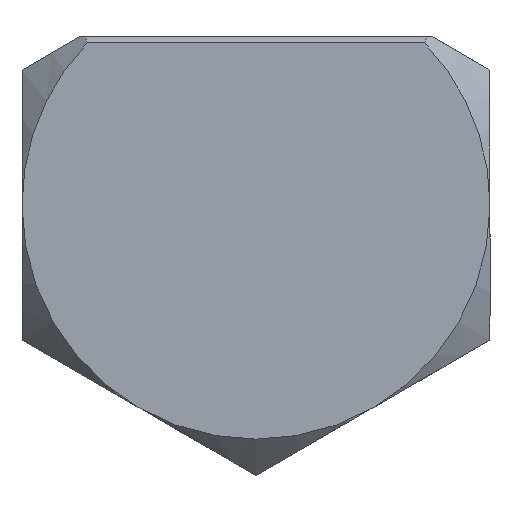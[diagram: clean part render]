
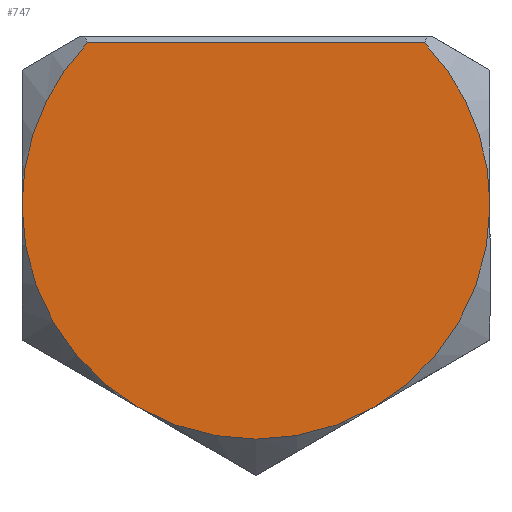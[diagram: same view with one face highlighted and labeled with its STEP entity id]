
A CAD part, front view. The second image highlights one B-rep face of the part: STEP entity #747.
In plain terms, the highlighted planar face has unit normal (0, -1, 0).
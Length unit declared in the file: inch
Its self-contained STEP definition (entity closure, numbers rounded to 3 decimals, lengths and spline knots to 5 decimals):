
#59=PLANE('',#843);
#125=FACE_OUTER_BOUND('',#170,.T.);
#170=EDGE_LOOP('',(#689,#690,#691,#692,#693,#694));
#197=LINE('',#1451,#233);
#233=VECTOR('',#983,0.3937);
#272=CIRCLE('',#820,0.75);
#277=CIRCLE('',#836,0.75);
#278=CIRCLE('',#838,0.75);
#279=CIRCLE('',#840,0.75);
#280=CIRCLE('',#842,0.75);
#344=VERTEX_POINT('',#1448);
#345=VERTEX_POINT('',#1450);
#348=VERTEX_POINT('',#1461);
#350=VERTEX_POINT('',#1473);
#354=VERTEX_POINT('',#1492);
#357=VERTEX_POINT('',#1504);
#440=EDGE_CURVE('',#344,#345,#197,.T.);
#446=EDGE_CURVE('',#348,#344,#272,.T.);
#467=EDGE_CURVE('',#345,#357,#277,.T.);
#468=EDGE_CURVE('',#357,#354,#278,.T.);
#469=EDGE_CURVE('',#354,#350,#279,.T.);
#470=EDGE_CURVE('',#350,#348,#280,.T.);
#689=ORIENTED_EDGE('',*,*,#440,.F.);
#690=ORIENTED_EDGE('',*,*,#446,.F.);
#691=ORIENTED_EDGE('',*,*,#470,.F.);
#692=ORIENTED_EDGE('',*,*,#469,.F.);
#693=ORIENTED_EDGE('',*,*,#468,.F.);
#694=ORIENTED_EDGE('',*,*,#467,.F.);
#747=ADVANCED_FACE('',(#125),#59,.T.);
#820=AXIS2_PLACEMENT_3D('',#1465,#991,#992);
#836=AXIS2_PLACEMENT_3D('',#1523,#1031,#1032);
#838=AXIS2_PLACEMENT_3D('',#1525,#1035,#1036);
#840=AXIS2_PLACEMENT_3D('',#1527,#1039,#1040);
#842=AXIS2_PLACEMENT_3D('',#1529,#1043,#1044);
#843=AXIS2_PLACEMENT_3D('',#1530,#1045,#1046);
#983=DIRECTION('',(1.,0.,0.));
#991=DIRECTION('center_axis',(0.,1.,0.));
#992=DIRECTION('ref_axis',(0.,0.,1.));
#1031=DIRECTION('center_axis',(0.,1.,0.));
#1032=DIRECTION('ref_axis',(0.,0.,1.));
#1035=DIRECTION('center_axis',(0.,1.,0.));
#1036=DIRECTION('ref_axis',(0.,0.,1.));
#1039=DIRECTION('center_axis',(0.,1.,0.));
#1040=DIRECTION('ref_axis',(0.,0.,1.));
#1043=DIRECTION('center_axis',(0.,1.,0.));
#1044=DIRECTION('ref_axis',(0.,0.,1.));
#1045=DIRECTION('center_axis',(0.,-1.,0.));
#1046=DIRECTION('ref_axis',(0.,0.,-1.));
#1448=CARTESIAN_POINT('',(-0.54046,0.,0.52));
#1450=CARTESIAN_POINT('',(0.54046,0.,0.52));
#1451=CARTESIAN_POINT('',(0.28235,0.,0.52));
#1461=CARTESIAN_POINT('',(-0.75,0.,0.));
#1465=CARTESIAN_POINT('Origin',(0.,0.,0.));
#1473=CARTESIAN_POINT('',(-0.375,0.,-0.64952));
#1492=CARTESIAN_POINT('',(0.375,0.,-0.64952));
#1504=CARTESIAN_POINT('',(0.75,0.,0.));
#1523=CARTESIAN_POINT('Origin',(0.,0.,0.));
#1525=CARTESIAN_POINT('Origin',(0.,0.,0.));
#1527=CARTESIAN_POINT('Origin',(0.,0.,0.));
#1529=CARTESIAN_POINT('Origin',(0.,0.,0.));
#1530=CARTESIAN_POINT('Origin',(0.,0.,0.));
